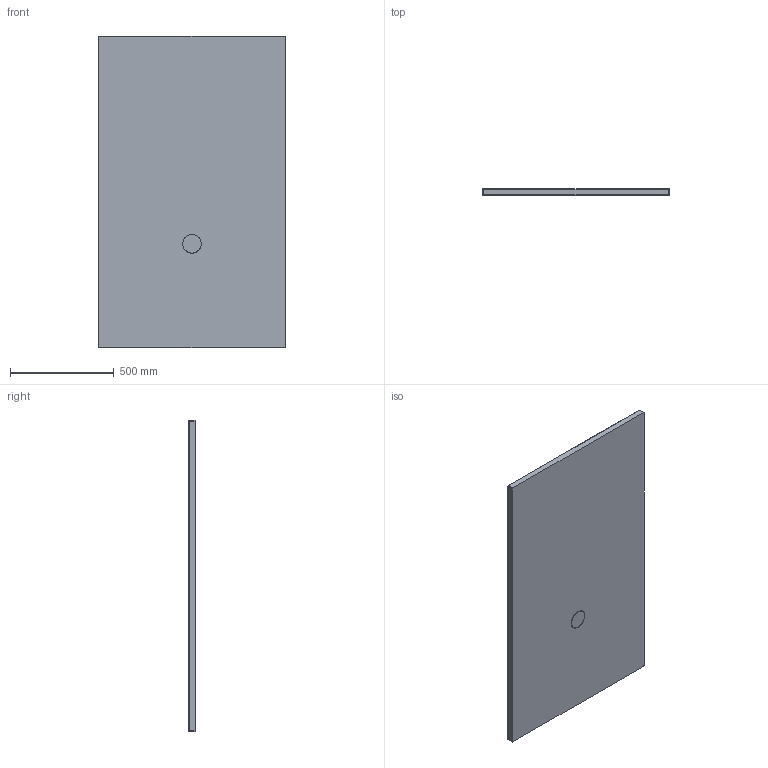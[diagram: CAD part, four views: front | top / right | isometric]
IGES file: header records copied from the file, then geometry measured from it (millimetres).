
Start section: SolidWorks IGES file using analytic representation for surfaces
Global section: file name: D:\Users\M.Szymanski\Desktop\Brodziki\Nias\B_M_NIAS_150x90x1,5.IGS; native system: SolidWorks 2011; preprocessor: SolidWorks 2011; author: M.Szymanski; date: 180222.142412; units: millimetre
Bounding box: 900 x 30 x 1500 mm (x, y, z)
Surface area: 2863777.2 mm2 (no closed solid volume)
Topology: 0 solids, 0 shells, 45 faces, 660 edges, 659 vertices
Faces by surface type: bspline 25, revolution 20
